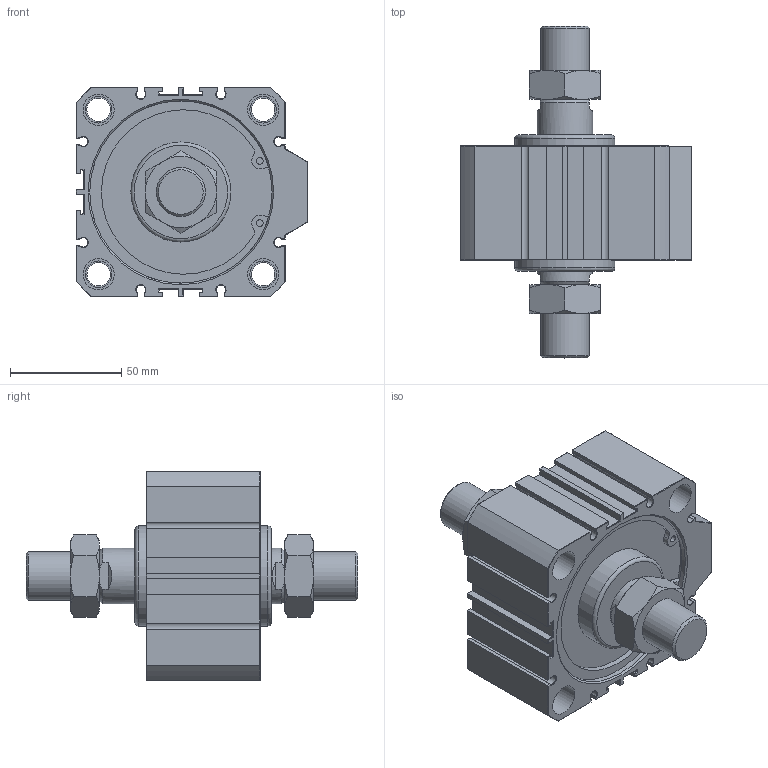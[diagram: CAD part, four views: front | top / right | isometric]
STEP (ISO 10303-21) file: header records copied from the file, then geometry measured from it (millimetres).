
FILE_DESCRIPTION(/* description */ (''),/* implementation_level */ '2;1');
FILE_NAME(/* name */ 'AJC-SW80X10W',/* time_stamp */ '2019-07-02T16:10:10+08:00',/* author */ ('JEFF HUANG'),/* organization */ ('TAIWAN AMAC CLAMP INDUSTRIAL CO., LTD.'),/* preprocessor_version */ 'ST-DEVELOPER v16.7',/* originating_system */ 'DEX',/* authorisation */ $);
FILE_SCHEMA (('AUTOMOTIVE_DESIGN {1 0 10303 214 3 1 1}'));
Length unit declared in the file: millimetre
Products named in the file (1): AJC-SW80X10W
Bounding box: 104 x 149.3 x 94 mm (x, y, z)
Volume: 448391.4 mm3; surface area: 66727.7 mm2
Topology: 1 solids, 1 shells, 432 faces, 968 edges, 538 vertices
Faces by surface type: plane 266, cone 90, cylinder 74, torus 2
Full cylindrical faces by diameter (mm): 3 x4, 10.5 x4, 12 x8, 14 x8, 15.806 x2, 22 x2, 25 x2, 45 x2, 82 x2
Entity records: 14258 total; most frequent: CARTESIAN_POINT 2083, DIRECTION 1898, ORIENTED_EDGE 1776, EDGE_CURVE 888, AXIS2_PLACEMENT_3D 649, LINE 600, VECTOR 600, VERTEX_POINT 532
